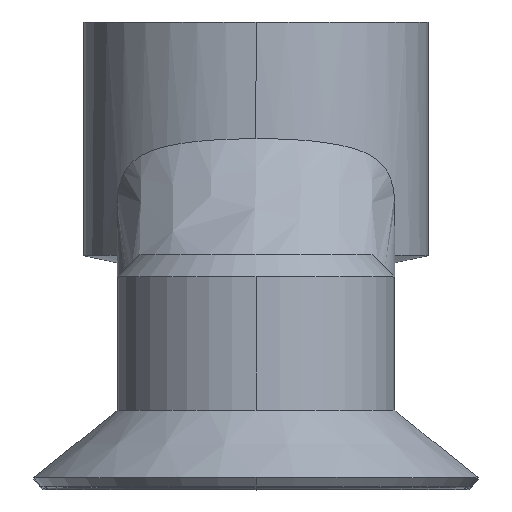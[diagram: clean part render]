
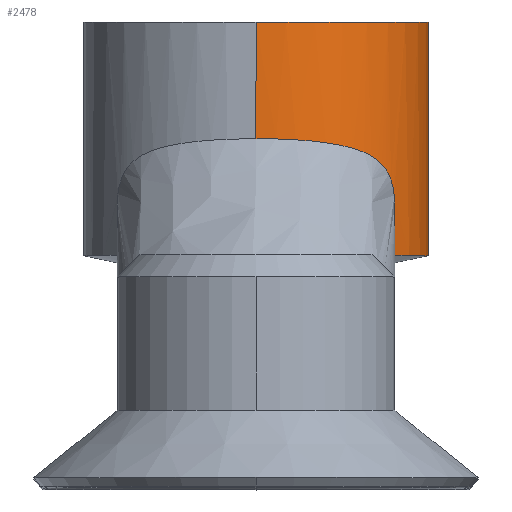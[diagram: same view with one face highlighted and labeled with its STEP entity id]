
A CAD part, top view. The second image highlights one B-rep face of the part: STEP entity #2478.
In plain terms, the highlighted cylindrical face has radius 7.75 mm (diameter 15.5 mm), a partial arc.
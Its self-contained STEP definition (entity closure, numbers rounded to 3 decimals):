
#52 = CARTESIAN_POINT ( 'NONE',  ( 0., 21., 7.75 ) ) ;
#62 = DIRECTION ( 'NONE',  ( 0., 1., 0. ) ) ;
#67 = CARTESIAN_POINT ( 'NONE',  ( 0., 10.5, 0. ) ) ;
#137 = CARTESIAN_POINT ( 'NONE',  ( 6.25, 10.5, 4.583 ) ) ;
#179 = DIRECTION ( 'NONE',  ( 0., 1., 0. ) ) ;
#209 = CARTESIAN_POINT ( 'NONE',  ( 6.25, 12.852, -4.583 ) ) ;
#247 = AXIS2_PLACEMENT_3D ( 'NONE', #2094, #2086, #2059 ) ;
#253 = ORIENTED_EDGE ( 'NONE', *, *, #563, .F. ) ;
#352 = ORIENTED_EDGE ( 'NONE', *, *, #726, .T. ) ;
#421 = CARTESIAN_POINT ( 'NONE',  ( 6.25, 12.667, -4.583 ) ) ;
#436 = CARTESIAN_POINT ( 'NONE',  ( 6.25, 10.5, 4.583 ) ) ;
#527 = LINE ( 'NONE', #2646, #2594 ) ;
#544 = ORIENTED_EDGE ( 'NONE', *, *, #2358, .T. ) ;
#563 = EDGE_CURVE ( 'NONE', #1135, #1746, #2539, .T. ) ;
#580 = EDGE_CURVE ( 'NONE', #1135, #1684, #1894, .T. ) ;
#607 = ORIENTED_EDGE ( 'NONE', *, *, #1602, .F. ) ;
#658 = ORIENTED_EDGE ( 'NONE', *, *, #2644, .F. ) ;
#685 = VERTEX_POINT ( 'NONE', #52 ) ;
#726 = EDGE_CURVE ( 'NONE', #685, #1345, #2281, .T. ) ;
#747 = B_SPLINE_CURVE_WITH_KNOTS ( 'NONE', 3,
 ( #1776, #1720, #1707, #1779, #1702, #1698, #1695, #1690, #1428, #1687, #1685, #1683, #1678, #1674, #1666, #1664, #1660, #1657, #1056, #1358, #1370, #1413, #1458, #1328 ),
 .UNSPECIFIED., .F., .F.,
 ( 4, 2, 2, 2, 2, 2, 2, 2, 2, 2, 2, 4 ),
 ( 0., 0.001, 0.001, 0.002, 0.002, 0.003, 0.003, 0.004, 0.004, 0.005, 0.007, 0.009 ),
 .UNSPECIFIED. ) ;
#809 = VERTEX_POINT ( 'NONE', #421 ) ;
#856 = B_SPLINE_CURVE_WITH_KNOTS ( 'NONE', 3,
 ( #1481, #209, #1494, #1497, #1502, #1510, #1515, #1519, #1525, #1309, #1532, #1538, #1544, #1548, #1551, #1555, #1563, #1566, #1573, #1577, #1581, #1586, #1588, #1593 ),
 .UNSPECIFIED., .F., .F.,
 ( 4, 2, 2, 2, 2, 2, 2, 2, 2, 2, 2, 4 ),
 ( -0.009, -0.008, -0.008, -0.007, -0.007, -0.006, -0.005, -0.005, -0.004, -0.003, -0.002, 0. ),
 .UNSPECIFIED. ) ;
#859 = DIRECTION ( 'NONE',  ( 0., 0., -1. ) ) ;
#888 = ORIENTED_EDGE ( 'NONE', *, *, #1301, .T. ) ;
#1030 = VECTOR ( 'NONE', #2164, 1000. ) ;
#1056 = CARTESIAN_POINT ( 'NONE',  ( 3.512, 15.516, 6.918 ) ) ;
#1135 = VERTEX_POINT ( 'NONE', #436 ) ;
#1253 = VECTOR ( 'NONE', #179, 1000. ) ;
#1301 = EDGE_CURVE ( 'NONE', #809, #2301, #856, .T. ) ;
#1309 = CARTESIAN_POINT ( 'NONE',  ( 5.582, 14.693, -5.378 ) ) ;
#1328 = CARTESIAN_POINT ( 'NONE',  ( 0., 15.75, 7.75 ) ) ;
#1345 = VERTEX_POINT ( 'NONE', #1831 ) ;
#1358 = CARTESIAN_POINT ( 'NONE',  ( 2.849, 15.61, 7.216 ) ) ;
#1370 = CARTESIAN_POINT ( 'NONE',  ( 2.508, 15.645, 7.342 ) ) ;
#1413 = CARTESIAN_POINT ( 'NONE',  ( 1.465, 15.726, 7.645 ) ) ;
#1418 = CARTESIAN_POINT ( 'NONE',  ( 0., 21., 7.75 ) ) ;
#1428 = CARTESIAN_POINT ( 'NONE',  ( 5.782, 14.472, 5.162 ) ) ;
#1451 = EDGE_LOOP ( 'NONE', ( #544, #352, #658, #253, #1904, #2229, #888, #607 ) ) ;
#1458 = CARTESIAN_POINT ( 'NONE',  ( 0.734, 15.75, 7.75 ) ) ;
#1481 = CARTESIAN_POINT ( 'NONE',  ( 6.25, 12.667, -4.583 ) ) ;
#1494 = CARTESIAN_POINT ( 'NONE',  ( 6.242, 13.035, -4.594 ) ) ;
#1497 = CARTESIAN_POINT ( 'NONE',  ( 6.203, 13.395, -4.646 ) ) ;
#1502 = CARTESIAN_POINT ( 'NONE',  ( 6.172, 13.574, -4.688 ) ) ;
#1510 = CARTESIAN_POINT ( 'NONE',  ( 6.081, 13.906, -4.805 ) ) ;
#1515 = CARTESIAN_POINT ( 'NONE',  ( 6.021, 14.062, -4.88 ) ) ;
#1519 = CARTESIAN_POINT ( 'NONE',  ( 5.871, 14.348, -5.061 ) ) ;
#1525 = CARTESIAN_POINT ( 'NONE',  ( 5.782, 14.472, -5.162 ) ) ;
#1532 = CARTESIAN_POINT ( 'NONE',  ( 5.471, 14.788, -5.491 ) ) ;
#1538 = CARTESIAN_POINT ( 'NONE',  ( 5.236, 14.954, -5.716 ) ) ;
#1544 = CARTESIAN_POINT ( 'NONE',  ( 5.112, 15.025, -5.828 ) ) ;
#1548 = CARTESIAN_POINT ( 'NONE',  ( 4.848, 15.152, -6.049 ) ) ;
#1551 = CARTESIAN_POINT ( 'NONE',  ( 4.71, 15.207, -6.157 ) ) ;
#1555 = CARTESIAN_POINT ( 'NONE',  ( 4.425, 15.304, -6.365 ) ) ;
#1563 = CARTESIAN_POINT ( 'NONE',  ( 4.279, 15.346, -6.464 ) ) ;
#1566 = CARTESIAN_POINT ( 'NONE',  ( 3.829, 15.459, -6.748 ) ) ;
#1573 = CARTESIAN_POINT ( 'NONE',  ( 3.512, 15.516, -6.918 ) ) ;
#1577 = CARTESIAN_POINT ( 'NONE',  ( 2.849, 15.61, -7.216 ) ) ;
#1581 = CARTESIAN_POINT ( 'NONE',  ( 2.508, 15.645, -7.342 ) ) ;
#1586 = CARTESIAN_POINT ( 'NONE',  ( 1.465, 15.726, -7.645 ) ) ;
#1588 = CARTESIAN_POINT ( 'NONE',  ( 0.734, 15.75, -7.75 ) ) ;
#1593 = CARTESIAN_POINT ( 'NONE',  ( 0., 15.75, -7.75 ) ) ;
#1602 = EDGE_CURVE ( 'NONE', #2054, #2301, #527, .T. ) ;
#1622 = CARTESIAN_POINT ( 'NONE',  ( 0., 21., -7.75 ) ) ;
#1657 = CARTESIAN_POINT ( 'NONE',  ( 3.829, 15.459, 6.748 ) ) ;
#1660 = CARTESIAN_POINT ( 'NONE',  ( 4.279, 15.346, 6.464 ) ) ;
#1664 = CARTESIAN_POINT ( 'NONE',  ( 4.425, 15.304, 6.365 ) ) ;
#1666 = CARTESIAN_POINT ( 'NONE',  ( 4.71, 15.207, 6.157 ) ) ;
#1674 = CARTESIAN_POINT ( 'NONE',  ( 4.848, 15.152, 6.049 ) ) ;
#1678 = CARTESIAN_POINT ( 'NONE',  ( 5.112, 15.025, 5.828 ) ) ;
#1683 = CARTESIAN_POINT ( 'NONE',  ( 5.236, 14.954, 5.716 ) ) ;
#1684 = VERTEX_POINT ( 'NONE', #2650 ) ;
#1685 = CARTESIAN_POINT ( 'NONE',  ( 5.471, 14.788, 5.491 ) ) ;
#1687 = CARTESIAN_POINT ( 'NONE',  ( 5.582, 14.693, 5.378 ) ) ;
#1690 = CARTESIAN_POINT ( 'NONE',  ( 5.871, 14.348, 5.061 ) ) ;
#1695 = CARTESIAN_POINT ( 'NONE',  ( 6.021, 14.062, 4.88 ) ) ;
#1696 = FACE_OUTER_BOUND ( 'NONE', #1451, .T. ) ;
#1698 = CARTESIAN_POINT ( 'NONE',  ( 6.081, 13.906, 4.805 ) ) ;
#1702 = CARTESIAN_POINT ( 'NONE',  ( 6.172, 13.574, 4.688 ) ) ;
#1707 = CARTESIAN_POINT ( 'NONE',  ( 6.242, 13.035, 4.594 ) ) ;
#1720 = CARTESIAN_POINT ( 'NONE',  ( 6.25, 12.852, 4.583 ) ) ;
#1746 = VERTEX_POINT ( 'NONE', #2022 ) ;
#1776 = CARTESIAN_POINT ( 'NONE',  ( 6.25, 12.667, 4.583 ) ) ;
#1779 = CARTESIAN_POINT ( 'NONE',  ( 6.203, 13.395, 4.646 ) ) ;
#1781 = DIRECTION ( 'NONE',  ( 0., -1., 0. ) ) ;
#1831 = CARTESIAN_POINT ( 'NONE',  ( 0., 15.75, 7.75 ) ) ;
#1894 = CIRCLE ( 'NONE', #1897, 7.75 ) ;
#1897 = AXIS2_PLACEMENT_3D ( 'NONE', #67, #62, #859 ) ;
#1904 = ORIENTED_EDGE ( 'NONE', *, *, #580, .T. ) ;
#2000 = VECTOR ( 'NONE', #2702, 1000. ) ;
#2022 = CARTESIAN_POINT ( 'NONE',  ( 6.25, 12.667, 4.583 ) ) ;
#2054 = VERTEX_POINT ( 'NONE', #1622 ) ;
#2059 = DIRECTION ( 'NONE',  ( 0., 0., -1. ) ) ;
#2086 = DIRECTION ( 'NONE',  ( 0., -1., 0. ) ) ;
#2094 = CARTESIAN_POINT ( 'NONE',  ( 0., 21., 0. ) ) ;
#2164 = DIRECTION ( 'NONE',  ( 0., -1., 0. ) ) ;
#2166 = CARTESIAN_POINT ( 'NONE',  ( 6.25, 10.5, -4.583 ) ) ;
#2213 = CIRCLE ( 'NONE', #2609, 7.75 ) ;
#2229 = ORIENTED_EDGE ( 'NONE', *, *, #2455, .F. ) ;
#2281 = LINE ( 'NONE', #1418, #2000 ) ;
#2301 = VERTEX_POINT ( 'NONE', #2727 ) ;
#2358 = EDGE_CURVE ( 'NONE', #2054, #685, #2213, .T. ) ;
#2455 = EDGE_CURVE ( 'NONE', #809, #1684, #2591, .T. ) ;
#2478 = ADVANCED_FACE ( 'NONE', ( #1696 ), #2516, .T. ) ;
#2516 = CYLINDRICAL_SURFACE ( 'NONE', #247, 7.75 ) ;
#2539 = LINE ( 'NONE', #137, #1253 ) ;
#2591 = LINE ( 'NONE', #2166, #1030 ) ;
#2594 = VECTOR ( 'NONE', #1781, 1000. ) ;
#2609 = AXIS2_PLACEMENT_3D ( 'NONE', #2634, #2619, #2625 ) ;
#2619 = DIRECTION ( 'NONE',  ( 0., -1., 0. ) ) ;
#2625 = DIRECTION ( 'NONE',  ( 0., 0., -1. ) ) ;
#2634 = CARTESIAN_POINT ( 'NONE',  ( 0., 21., 0. ) ) ;
#2644 = EDGE_CURVE ( 'NONE', #1746, #1345, #747, .T. ) ;
#2646 = CARTESIAN_POINT ( 'NONE',  ( 0., 21., -7.75 ) ) ;
#2650 = CARTESIAN_POINT ( 'NONE',  ( 6.25, 10.5, -4.583 ) ) ;
#2702 = DIRECTION ( 'NONE',  ( 0., -1., 0. ) ) ;
#2727 = CARTESIAN_POINT ( 'NONE',  ( 0., 15.75, -7.75 ) ) ;
